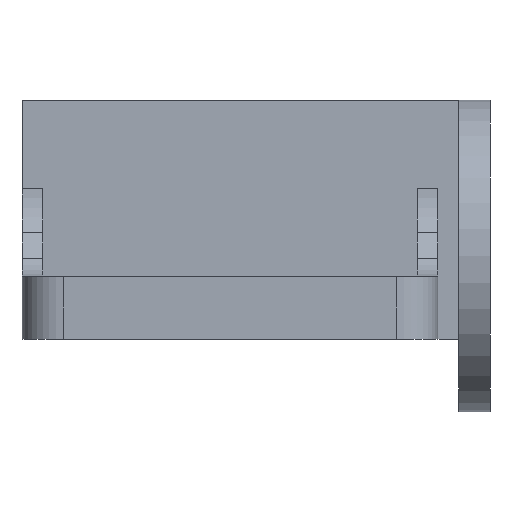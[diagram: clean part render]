
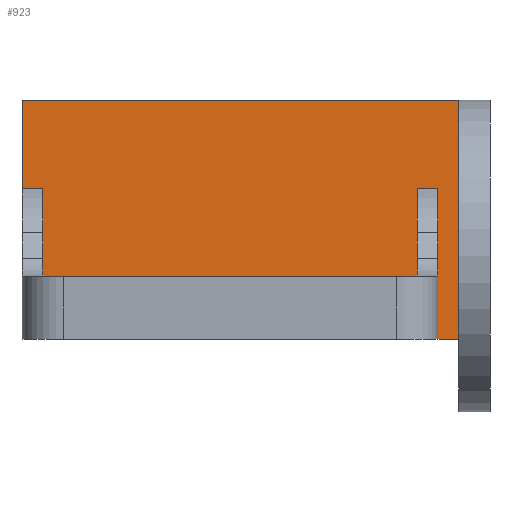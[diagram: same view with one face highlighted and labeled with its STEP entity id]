
A CAD part, front view. The second image highlights one B-rep face of the part: STEP entity #923.
In plain terms, the highlighted planar face has unit normal (0, -1, 0).
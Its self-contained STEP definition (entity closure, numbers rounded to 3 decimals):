
#47=PLANE('',#1000);
#83=FACE_OUTER_BOUND('',#135,.T.);
#135=EDGE_LOOP('',(#701,#702,#703,#704,#705,#706,#707,#708,#709,#710));
#212=LINE('',#1445,#302);
#217=LINE('',#1463,#307);
#220=LINE('',#1471,#310);
#221=LINE('',#1475,#311);
#222=LINE('',#1477,#312);
#223=LINE('',#1479,#313);
#224=LINE('',#1481,#314);
#225=LINE('',#1482,#315);
#226=LINE('',#1483,#316);
#227=LINE('',#1484,#317);
#302=VECTOR('',#1149,18.);
#307=VECTOR('',#1164,1.);
#310=VECTOR('',#1173,1.);
#311=VECTOR('',#1178,7.243);
#312=VECTOR('',#1179,1.);
#313=VECTOR('',#1180,11.5);
#314=VECTOR('',#1181,21.);
#315=VECTOR('',#1182,4.257);
#316=VECTOR('',#1183,4.243);
#317=VECTOR('',#1184,4.243);
#443=VERTEX_POINT('',#1442);
#444=VERTEX_POINT('',#1444);
#449=VERTEX_POINT('',#1456);
#452=VERTEX_POINT('',#1461);
#453=VERTEX_POINT('',#1468);
#454=VERTEX_POINT('',#1470);
#455=VERTEX_POINT('',#1474);
#456=VERTEX_POINT('',#1476);
#457=VERTEX_POINT('',#1478);
#458=VERTEX_POINT('',#1480);
#542=EDGE_CURVE('',#443,#444,#212,.T.);
#551=EDGE_CURVE('',#452,#449,#217,.T.);
#555=EDGE_CURVE('',#453,#454,#220,.T.);
#557=EDGE_CURVE('',#452,#455,#221,.T.);
#558=EDGE_CURVE('',#455,#456,#222,.T.);
#559=EDGE_CURVE('',#456,#457,#223,.T.);
#560=EDGE_CURVE('',#458,#457,#224,.T.);
#561=EDGE_CURVE('',#454,#458,#225,.T.);
#562=EDGE_CURVE('',#453,#444,#226,.T.);
#563=EDGE_CURVE('',#443,#449,#227,.T.);
#701=ORIENTED_EDGE('',*,*,#557,.T.);
#702=ORIENTED_EDGE('',*,*,#558,.T.);
#703=ORIENTED_EDGE('',*,*,#559,.T.);
#704=ORIENTED_EDGE('',*,*,#560,.F.);
#705=ORIENTED_EDGE('',*,*,#561,.F.);
#706=ORIENTED_EDGE('',*,*,#555,.F.);
#707=ORIENTED_EDGE('',*,*,#562,.T.);
#708=ORIENTED_EDGE('',*,*,#542,.F.);
#709=ORIENTED_EDGE('',*,*,#563,.T.);
#710=ORIENTED_EDGE('',*,*,#551,.F.);
#923=ADVANCED_FACE('',(#83),#47,.T.);
#1000=AXIS2_PLACEMENT_3D('',#1473,#1176,#1177);
#1149=DIRECTION('',(-1.,0.,0.));
#1164=DIRECTION('',(-1.,0.,0.));
#1173=DIRECTION('',(-1.,0.,0.));
#1176=DIRECTION('center_axis',(0.,-1.,0.));
#1177=DIRECTION('ref_axis',(1.,0.,0.));
#1178=DIRECTION('',(0.,0.,-1.));
#1179=DIRECTION('',(1.,0.,0.));
#1180=DIRECTION('',(0.,0.,1.));
#1181=DIRECTION('',(1.,0.,0.));
#1182=DIRECTION('',(0.,0.,1.));
#1183=DIRECTION('',(0.,0.,-1.));
#1184=DIRECTION('',(0.,0.,1.));
#1442=CARTESIAN_POINT('',(9.,-14.,3.));
#1444=CARTESIAN_POINT('',(-9.,-14.,3.));
#1445=CARTESIAN_POINT('',(-5.,-14.,3.));
#1456=CARTESIAN_POINT('',(9.,-14.,7.243));
#1461=CARTESIAN_POINT('',(10.,-14.,7.243));
#1463=CARTESIAN_POINT('',(0.,-14.,7.243));
#1468=CARTESIAN_POINT('',(-9.,-14.,7.243));
#1470=CARTESIAN_POINT('',(-10.,-14.,7.243));
#1471=CARTESIAN_POINT('',(-10.,-14.,7.243));
#1473=CARTESIAN_POINT('Origin',(-10.,-14.,0.));
#1474=CARTESIAN_POINT('',(10.,-14.,0.));
#1475=CARTESIAN_POINT('',(10.,-14.,0.));
#1476=CARTESIAN_POINT('',(11.,-14.,0.));
#1477=CARTESIAN_POINT('',(-10.,-14.,0.));
#1478=CARTESIAN_POINT('',(11.,-14.,11.5));
#1479=CARTESIAN_POINT('',(11.,-14.,0.));
#1480=CARTESIAN_POINT('',(-10.,-14.,11.5));
#1481=CARTESIAN_POINT('',(-10.,-14.,11.5));
#1482=CARTESIAN_POINT('',(-10.,-14.,0.));
#1483=CARTESIAN_POINT('',(-9.,-14.,2.03));
#1484=CARTESIAN_POINT('',(9.,-14.,2.03));
